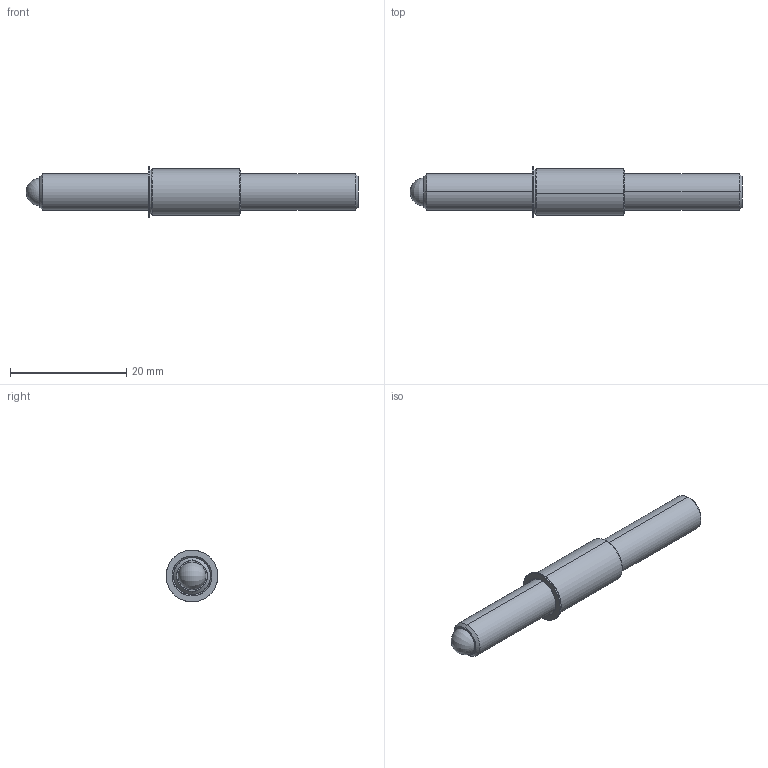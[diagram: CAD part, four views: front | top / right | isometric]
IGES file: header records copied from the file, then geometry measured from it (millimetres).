
Start section: SolidWorks IGES file using analytic representation for surfaces
Global section: file name: C:\Users\workpc\Desktop\KMA Solidworks\TSB250-80-2250_625-AA.IGS; native system: SolidWorks 2013; preprocessor: SolidWorks 2013; author: workpc; date: 130314.085826; units: inch
Bounding box: 57.15 x 8.93 x 8.93 mm (x, y, z)
Surface area: 1672.7 mm2 (no closed solid volume)
Topology: 0 solids, 0 shells, 33 faces, 406 edges, 402 vertices
Faces by surface type: revolution 22, bspline 11
